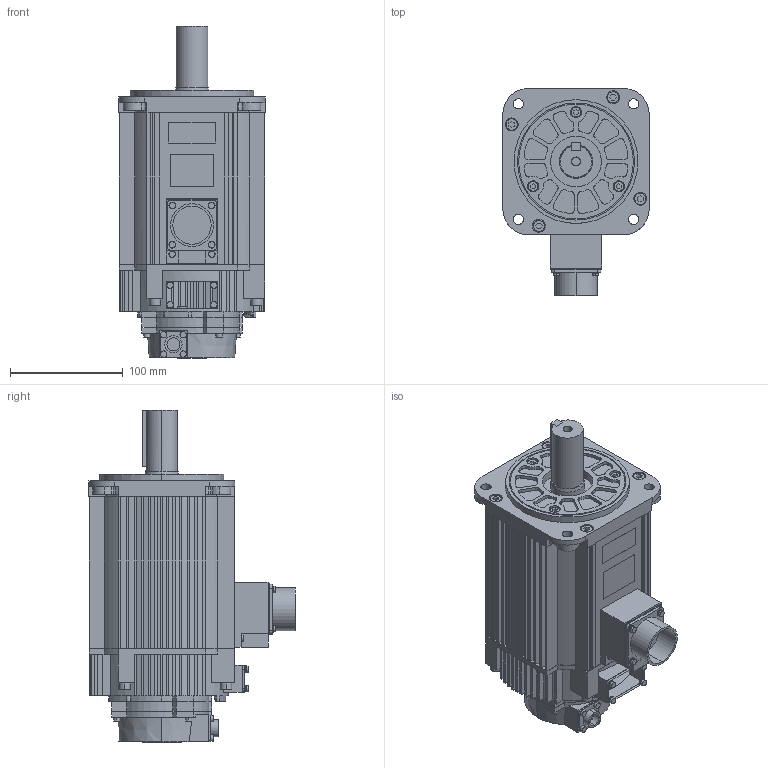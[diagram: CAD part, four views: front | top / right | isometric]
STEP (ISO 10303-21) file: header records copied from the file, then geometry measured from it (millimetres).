
FILE_DESCRIPTION (( 'STEP AP203' ), '1' );
FILE_NAME ('sgmsv_30a_a6c.STEP', '2011-03-20T11:47:48', ( '匠エンジニアリング山之内' ), ( 'TAKUMI-Engniaring' ), 'SwSTEP 2.0', 'SolidWorks 2006303', '' );
FILE_SCHEMA (( 'CONFIG_CONTROL_DESIGN' ));
Length unit declared in the file: millimetre
Products named in the file (3): sgmsv_30a_a6c_base; sgmsv_30a_a6c; sgmsv_30a_a6c_key
Assembly tree (2 placements, depth 2):
  sgmsv_30a_a6c
    sgmsv_30a_a6c_base
    sgmsv_30a_a6c_key
Bounding box: 130 x 183.82 x 295.1 mm (x, y, z)
Volume: 3002499.4 mm3; surface area: 230233.5 mm2
Topology: 2 solids, 2 shells, 1208 faces, 3125 edges, 2043 vertices
Faces by surface type: plane 774, cylinder 426, cone 8
Entity records: 37196 total; most frequent: CARTESIAN_POINT 6510, DIRECTION 6426, ORIENTED_EDGE 6250, EDGE_CURVE 3125, VECTOR 2230, LINE 2230, AXIS2_PLACEMENT_3D 2098, VERTEX_POINT 2043
